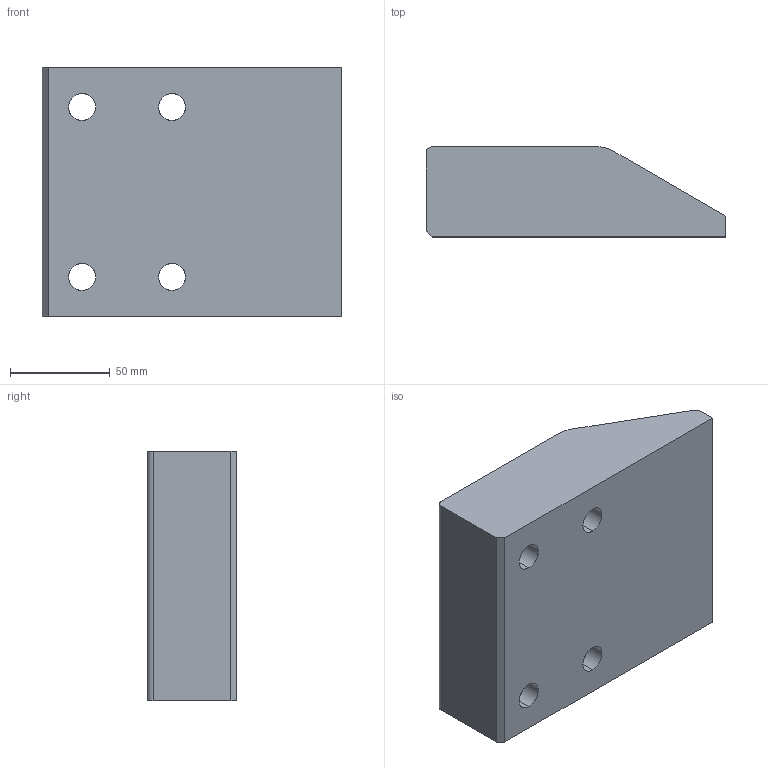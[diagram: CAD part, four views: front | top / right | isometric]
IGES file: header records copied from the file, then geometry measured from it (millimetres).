
Start section: START RECORD GO HERE.
Global section: file name: A935-12515045.igs; native system: DASSAULT SYSTEMES CATIA V5 R20 - www.3ds.com; preprocessor: CATIA Version 5 Release 20 ; author: Utente; organization: NB04-ASUS; date: 20200417.104051; units: millimetre
Bounding box: 150 x 45 x 125 mm (x, y, z)
Surface area: 65172.9 mm2 (no closed solid volume)
Topology: 0 solids, 0 shells, 39 faces, 182 edges, 182 vertices
Faces by surface type: revolution 27, extrusion 12
